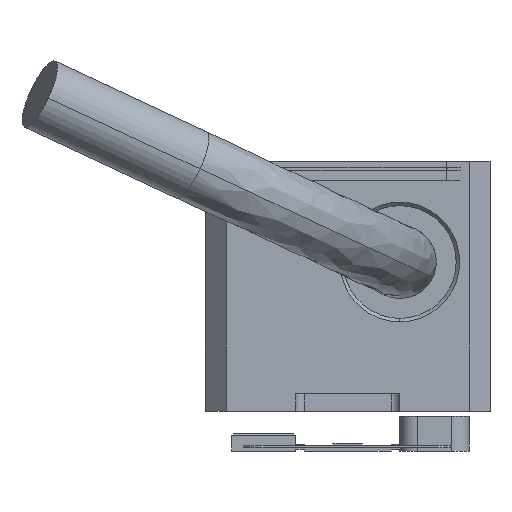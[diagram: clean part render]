
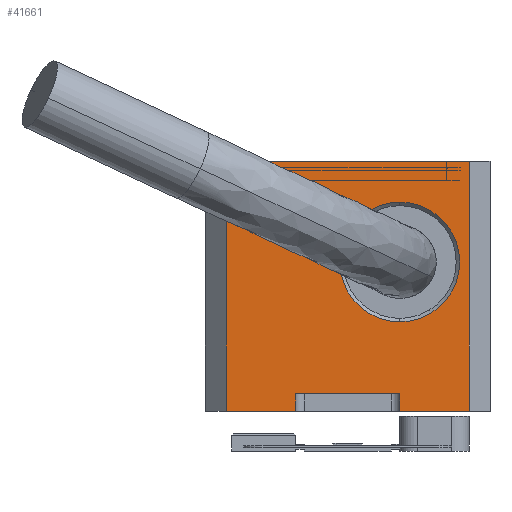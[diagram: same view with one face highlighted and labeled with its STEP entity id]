
A CAD part, left-side view. The second image highlights one B-rep face of the part: STEP entity #41661.
In plain terms, the highlighted planar face has unit normal (-1, 0, 0).
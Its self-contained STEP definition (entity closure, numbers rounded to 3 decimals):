
#47 = CARTESIAN_POINT ( 'NONE',  ( -18., -7., 14.4 ) ) ;
#155 = AXIS2_PLACEMENT_3D ( 'NONE', #52484, #32288, #29563 ) ;
#1099 = VERTEX_POINT ( 'NONE', #47 ) ;
#1325 = CARTESIAN_POINT ( 'NONE',  ( -18., -3., 12.05 ) ) ;
#1499 = LINE ( 'NONE', #37341, #23429 ) ;
#2065 = DIRECTION ( 'NONE',  ( 0., 0., 1. ) ) ;
#2597 = CARTESIAN_POINT ( 'NONE',  ( -18., -3., 8.6 ) ) ;
#2674 = LINE ( 'NONE', #14892, #41287 ) ;
#3829 = EDGE_CURVE ( 'NONE', #31065, #15930, #30988, .T. ) ;
#3832 = EDGE_LOOP ( 'NONE', ( #34076, #38497 ) ) ;
#5132 = ORIENTED_EDGE ( 'NONE', *, *, #3829, .T. ) ;
#6912 = DIRECTION ( 'NONE',  ( 0., 0., 1. ) ) ;
#7673 = EDGE_CURVE ( 'NONE', #29472, #9506, #40163, .T. ) ;
#9273 = EDGE_CURVE ( 'NONE', #51347, #18492, #9547, .T. ) ;
#9501 = LINE ( 'NONE', #33927, #12830 ) ;
#9506 = VERTEX_POINT ( 'NONE', #41351 ) ;
#9547 = LINE ( 'NONE', #38723, #48723 ) ;
#10187 = CARTESIAN_POINT ( 'NONE',  ( -18., 7., 14.4 ) ) ;
#10316 = EDGE_CURVE ( 'NONE', #15930, #1099, #2674, .T. ) ;
#11921 = ORIENTED_EDGE ( 'NONE', *, *, #15770, .T. ) ;
#12464 = FACE_OUTER_BOUND ( 'NONE', #26987, .T. ) ;
#12759 = CARTESIAN_POINT ( 'NONE',  ( -18., 7., 0. ) ) ;
#12830 = VECTOR ( 'NONE', #2065, 1000. ) ;
#13904 = AXIS2_PLACEMENT_3D ( 'NONE', #2597, #44032, #31542 ) ;
#14203 = CARTESIAN_POINT ( 'NONE',  ( -18., -3., 5.15 ) ) ;
#14307 = DIRECTION ( 'NONE',  ( 0., -1., 0. ) ) ;
#14892 = CARTESIAN_POINT ( 'NONE',  ( -18., -7., 14.4 ) ) ;
#15770 = EDGE_CURVE ( 'NONE', #35301, #51347, #41825, .T. ) ;
#15930 = VERTEX_POINT ( 'NONE', #47364 ) ;
#16689 = ORIENTED_EDGE ( 'NONE', *, *, #38132, .F. ) ;
#18211 = ORIENTED_EDGE ( 'NONE', *, *, #9273, .T. ) ;
#18480 = EDGE_CURVE ( 'NONE', #42871, #44252, #52035, .T. ) ;
#18492 = VERTEX_POINT ( 'NONE', #35252 ) ;
#19723 = EDGE_CURVE ( 'NONE', #29472, #18492, #1499, .T. ) ;
#22434 = ORIENTED_EDGE ( 'NONE', *, *, #37225, .F. ) ;
#23429 = VECTOR ( 'NONE', #45837, 1000. ) ;
#24181 = CARTESIAN_POINT ( 'NONE',  ( -18., -8.2, 14.4 ) ) ;
#24713 = PLANE ( 'NONE',  #41165 ) ;
#26409 = DIRECTION ( 'NONE',  ( 0., 0., -1. ) ) ;
#26823 = CARTESIAN_POINT ( 'NONE',  ( -18., -8.2, 14.4 ) ) ;
#26987 = EDGE_LOOP ( 'NONE', ( #34144, #35534, #16689, #5132, #29539, #22434, #11921, #18211 ) ) ;
#29472 = VERTEX_POINT ( 'NONE', #49056 ) ;
#29539 = ORIENTED_EDGE ( 'NONE', *, *, #10316, .T. ) ;
#29563 = DIRECTION ( 'NONE',  ( 0., 0., -1. ) ) ;
#30988 = LINE ( 'NONE', #43758, #35648 ) ;
#31065 = VERTEX_POINT ( 'NONE', #34630 ) ;
#31131 = DIRECTION ( 'NONE',  ( 0., -1., 0. ) ) ;
#31542 = DIRECTION ( 'NONE',  ( 0., 0., -1. ) ) ;
#32288 = DIRECTION ( 'NONE',  ( 1., 0., 0. ) ) ;
#33180 = CIRCLE ( 'NONE', #155, 3.45 ) ;
#33927 = CARTESIAN_POINT ( 'NONE',  ( -18., -3., -0.5 ) ) ;
#34076 = ORIENTED_EDGE ( 'NONE', *, *, #18480, .T. ) ;
#34144 = ORIENTED_EDGE ( 'NONE', *, *, #19723, .F. ) ;
#34630 = CARTESIAN_POINT ( 'NONE',  ( -18., -3., 0. ) ) ;
#35050 = VECTOR ( 'NONE', #31131, 1000. ) ;
#35252 = CARTESIAN_POINT ( 'NONE',  ( -18., 3., 0. ) ) ;
#35301 = VERTEX_POINT ( 'NONE', #48116 ) ;
#35534 = ORIENTED_EDGE ( 'NONE', *, *, #7673, .T. ) ;
#35648 = VECTOR ( 'NONE', #39506, 1000. ) ;
#36631 = DIRECTION ( 'NONE',  ( 0., 0., -1. ) ) ;
#37225 = EDGE_CURVE ( 'NONE', #35301, #1099, #47007, .T. ) ;
#37341 = CARTESIAN_POINT ( 'NONE',  ( -18., 3., -0.5 ) ) ;
#38132 = EDGE_CURVE ( 'NONE', #31065, #9506, #9501, .T. ) ;
#38196 = EDGE_CURVE ( 'NONE', #44252, #42871, #33180, .T. ) ;
#38497 = ORIENTED_EDGE ( 'NONE', *, *, #38196, .T. ) ;
#38723 = CARTESIAN_POINT ( 'NONE',  ( -18., -8.2, 0. ) ) ;
#39506 = DIRECTION ( 'NONE',  ( 0., -1., 0. ) ) ;
#40163 = LINE ( 'NONE', #44428, #35050 ) ;
#41165 = AXIS2_PLACEMENT_3D ( 'NONE', #24181, #49116, #36631 ) ;
#41287 = VECTOR ( 'NONE', #6912, 1000. ) ;
#41351 = CARTESIAN_POINT ( 'NONE',  ( -18., -3., 1. ) ) ;
#41661 = ADVANCED_FACE ( 'NONE', ( #47276, #12464 ), #24713, .F. ) ;
#41825 = LINE ( 'NONE', #10187, #48521 ) ;
#42871 = VERTEX_POINT ( 'NONE', #1325 ) ;
#43014 = DIRECTION ( 'NONE',  ( 0., -1., 0. ) ) ;
#43758 = CARTESIAN_POINT ( 'NONE',  ( -18., -8.2, 0. ) ) ;
#44032 = DIRECTION ( 'NONE',  ( 1., 0., 0. ) ) ;
#44252 = VERTEX_POINT ( 'NONE', #14203 ) ;
#44428 = CARTESIAN_POINT ( 'NONE',  ( -18., 3., 1. ) ) ;
#44775 = VECTOR ( 'NONE', #43014, 1000. ) ;
#45837 = DIRECTION ( 'NONE',  ( 0., 0., -1. ) ) ;
#47007 = LINE ( 'NONE', #26823, #44775 ) ;
#47276 = FACE_BOUND ( 'NONE', #3832, .T. ) ;
#47364 = CARTESIAN_POINT ( 'NONE',  ( -18., -7., 0. ) ) ;
#48116 = CARTESIAN_POINT ( 'NONE',  ( -18., 7., 14.4 ) ) ;
#48521 = VECTOR ( 'NONE', #26409, 1000. ) ;
#48723 = VECTOR ( 'NONE', #14307, 1000. ) ;
#49056 = CARTESIAN_POINT ( 'NONE',  ( -18., 3., 1. ) ) ;
#49116 = DIRECTION ( 'NONE',  ( 1., 0., 0. ) ) ;
#51347 = VERTEX_POINT ( 'NONE', #12759 ) ;
#52035 = CIRCLE ( 'NONE', #13904, 3.45 ) ;
#52484 = CARTESIAN_POINT ( 'NONE',  ( -18., -3., 8.6 ) ) ;
